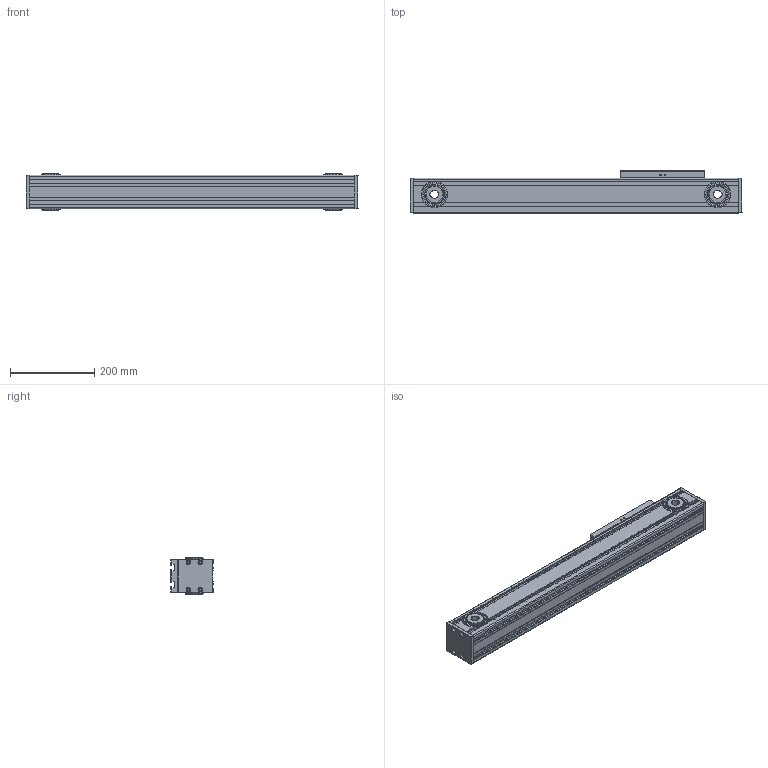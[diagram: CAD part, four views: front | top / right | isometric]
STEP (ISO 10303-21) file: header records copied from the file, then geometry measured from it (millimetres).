
FILE_DESCRIPTION (( 'STEP AP214' ), '1' );
FILE_NAME ('TKR80-400A1-F0-R3-高速内滚轮直线模组.step', '2025-10-10T03:25:57', ( '' ), ( '' ), 'SwSTEP 2.0', 'SolidWorks 2024', '' );
FILE_SCHEMA (( 'AUTOMOTIVE_DESIGN' ));
Length unit declared in the file: millimetre
Products named in the file (3): TKR80-R3-02; TKR80-400-R3-01; TKR80-400A1-F0-R3-高速内滚轮直线模组
Assembly tree (2 placements, depth 2):
  TKR80-400A1-F0-R3-高速内滚轮直线模组
    TKR80-400-R3-01
    TKR80-R3-02
Bounding box: 786 x 100 x 87 mm (x, y, z)
Volume: 2458410.6 mm3; surface area: 982499.8 mm2
Topology: 1 solids, 52 shells, 2499 faces, 6775 edges, 4338 vertices
Faces by surface type: cylinder 1279, plane 770, torus 244, cone 182, sphere 24
Entity records: 120687 total; most frequent: CARTESIAN_POINT 31465, ORIENTED_EDGE 13382, DIRECTION 13179, EDGE_CURVE 6731, AXIS2_PLACEMENT_3D 5137, VERTEX_POINT 4338, VECTOR 2905, LINE 2905
